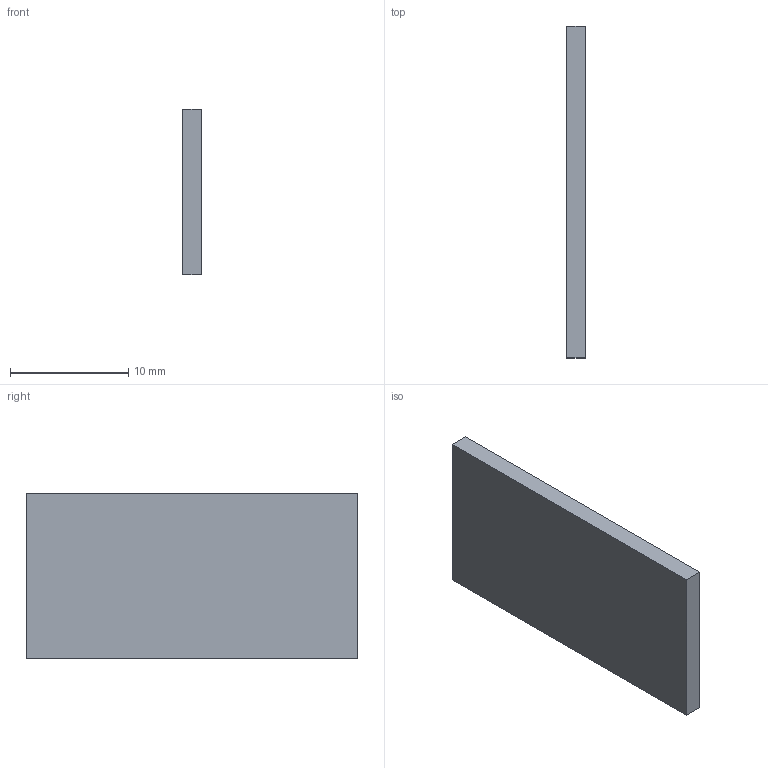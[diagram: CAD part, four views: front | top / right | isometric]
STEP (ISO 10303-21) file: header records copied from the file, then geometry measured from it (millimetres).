
FILE_DESCRIPTION(('Open CASCADE Model'),'2;1');
FILE_NAME('Open CASCADE Shape Model','2026-10-17T22:10:42',('Author'),( 'Open CASCADE'),'Open CASCADE STEP processor 7.9','Open CASCADE 7.9' ,'Unknown');
FILE_SCHEMA(('AUTOMOTIVE_DESIGN { 1 0 10303 214 1 1 1 1 }'));
Length unit declared in the file: millimetre
Products named in the file (1): Open CASCADE STEP translator 7.9 6
Bounding box: 1.6 x 28 x 14 mm (x, y, z)
Volume: 627.2 mm3; surface area: 918.4 mm2
Topology: 1 solids, 1 shells, 6 faces, 12 edges, 8 vertices
Faces by surface type: plane 6
Entity records: 322 total; most frequent: CARTESIAN_POINT 51, DIRECTION 50, LINE 36, VECTOR 36, ORIENTED_EDGE 24, PCURVE 24, DEFINITIONAL_REPRESENTATION 24, EDGE_CURVE 12
